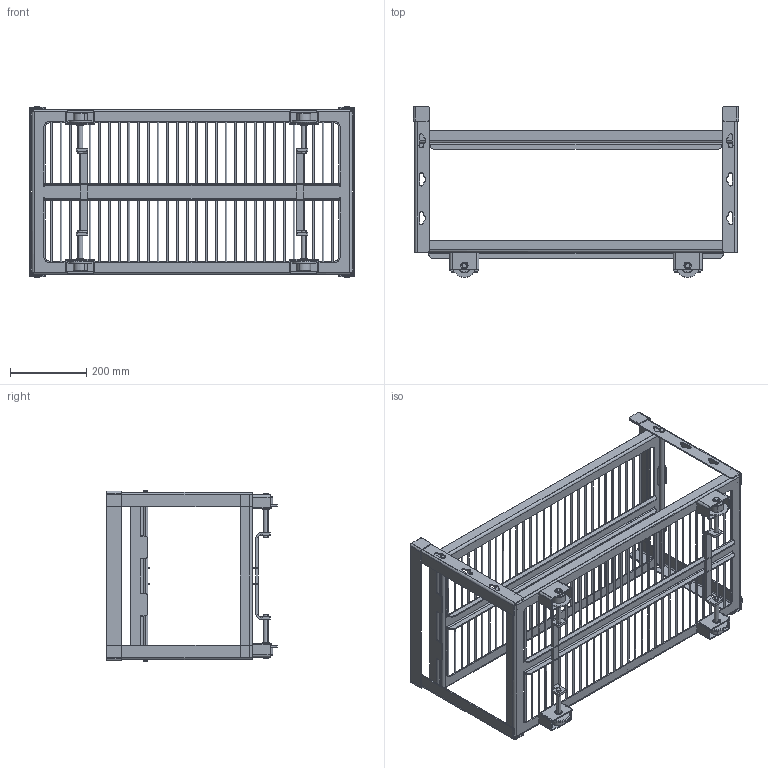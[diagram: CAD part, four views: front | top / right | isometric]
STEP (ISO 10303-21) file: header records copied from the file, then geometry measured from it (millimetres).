
FILE_DESCRIPTION (( 'STEP AP203' ), '1' );
FILE_NAME ('SSR-3A - CART.STEP', '2026-05-18T20:03:30', ( '' ), ( '' ), 'SwSTEP 2.0', 'SolidWorks 2024', '' );
FILE_SCHEMA (( 'CONFIG_CONTROL_DESIGN' ));
Length unit declared in the file: inch
Products named in the file (16): 91429 - CART WHEEL BEARING; 93273 - CART AXLE BRACKET_-01, SSR; WASHER, FLAT, 0.500 ID x 0.750 OD x 0.06 THK, PTFE_90334A129; SSR-3A - CART; 91428 - CART WHEEL; 93279 - 3AAV Cart Base_3A; RETAINING RING, EXTERNAL, 0.500 OD, 15-7SS; 92463 - CART WHEEL BEARING ASSY; 93294 - 3AAV CART SHELF WELDMENT; 93778 - CART AXLE BRACE; 93291 - 3AAV CART WIRE RACK_-01, 3A; 93272 - CART UPRIGHT BAND_-20; 93280 - 3AAV Cart Shelf_-01 A-C; 93278 - CART SHELF SUPPORT_20 Width; 93281 - 3AAV CART UPRIGHT_26 Upright; 93277 - CART AXLE_new
Assembly tree (45 placements, depth 3):
  SSR-3A - CART
    93279 - 3AAV Cart Base_3A
    93294 - 3AAV CART SHELF WELDMENT
      93280 - 3AAV Cart Shelf_-01 A-C
      93291 - 3AAV CART WIRE RACK_-01, 3A
    93273 - CART AXLE BRACKET_-01, SSR  x4
    93281 - 3AAV CART UPRIGHT_26 Upright  x4
    93278 - CART SHELF SUPPORT_20 Width  x2
    93272 - CART UPRIGHT BAND_-20  x2
    93277 - CART AXLE_new  x4
    92463 - CART WHEEL BEARING ASSY  x4
      91428 - CART WHEEL
      91429 - CART WHEEL BEARING
    WASHER, FLAT, 0.500 ID x 0.750 OD x 0.06 THK, PTFE_90334A129  x8
    RETAINING RING, EXTERNAL, 0.500 OD, 15-7SS  x8
    93291 - 3AAV CART WIRE RACK_-01, 3A
    93778 - CART AXLE BRACE  x2
Bounding box: 850.9 x 446.52 x 447.42 mm (x, y, z)
Volume: 2814578.8 mm3; surface area: 1898150.9 mm2
Topology: 110 solids, 110 shells, 1760 faces, 4156 edges, 2628 vertices
Faces by surface type: cylinder 844, plane 812, cone 72, bspline 16, torus 16
Entity records: 27634 total; most frequent: CARTESIAN_POINT 4785, DIRECTION 4484, ORIENTED_EDGE 4068, EDGE_CURVE 2034, AXIS2_PLACEMENT_3D 1609, VERTEX_POINT 1270, VECTOR 1266, LINE 1266
